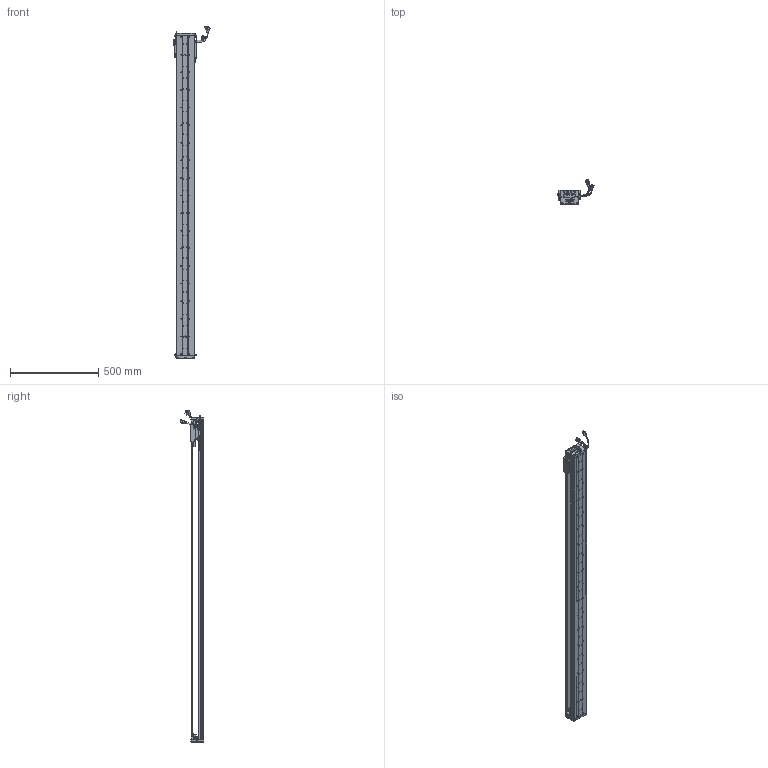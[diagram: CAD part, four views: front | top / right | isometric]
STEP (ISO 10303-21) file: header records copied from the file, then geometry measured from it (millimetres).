
FILE_DESCRIPTION (( 'STEP AP203' ), '1' );
FILE_NAME ('Z1-RY100D-1-L500-B-K.SLDASM_1650.step', '2021-05-17T01:42:18', ( '盈信电脑' ), ( '东莞市道滘镇水果街19号' ), 'SwSTEP 2.0', 'SolidWorks 2016', '' );
FILE_SCHEMA (( 'CONFIG_CONTROL_DESIGN' ));
Length unit declared in the file: millimetre
Products named in the file (36): HARNESS-Part-1; HARNESS; COVER-Part-1; 140雄赽晤鎢ん堤盄; 100-Z-臏賑輸盄裔(21遴); HOLDER0; HARNESS-Part-2; COVER; SCREW-M1.6-1; 140蚥薯蝶輸; 榋妏寠巭燃_暯_M2_2; PBU_SHEET; Z1-RY100-L500詩湍90mm遵_1650; SCREW-M1.6; LABEL; SCREW-M1.7; SCALE-Part-1; SCALE-Part-2; SCALE; Z1-RY100D-1-L500-B-K.SLDASM_1650; Z-RY100D詩湍奻揤裔; SEAL; LABEL-Part-1; Z-100詩湍傷裔啣; 080黍杅芛假蚾釱21遴; Z1-RY100D-500-倰第菁釱_1650; Z-RY100D詩湍狟揤裔; SHIELDPLATE; SCREW-M1.6-3; Z-RY100D覜茼んえ; SEAL-Part-1; SCREW-M1.6-2; 覜茼ん672; SCREW-M1.7-1; Z1-RY100铝滑块（21款）; PSLH080_PSLF2
Assembly tree (44 placements, depth 4):
  Z1-RY100D-1-L500-B-K.SLDASM_1650
    Z1-RY100D-500-倰第菁釱_1650
    Z1-RY100铝滑块（21款）
    PSLH080_PSLF2
      SCALE
        SCALE-Part-1
        SCALE-Part-2
      HARNESS
        HARNESS-Part-1
        HARNESS-Part-2
      LABEL
        LABEL-Part-1
      COVER
        COVER-Part-1
      SEAL
        SEAL-Part-1
      榋妏寠巭燃_暯_M2_2
      SHIELDPLATE
      SCREW-M1.7
      SCREW-M1.7-1
      PBU_SHEET
      SCREW-M1.6
      SCREW-M1.6-1
      SCREW-M1.6-2
      SCREW-M1.6-3
      HOLDER0
    080黍杅芛假蚾釱21遴
    Z-100詩湍傷裔啣  x2
    140蚥薯蝶輸  x2
    覜茼ん672  x4
    Z-RY100D覜茼んえ  x3
    100-Z-臏賑輸盄裔(21遴)
    140雄赽晤鎢ん堤盄
    Z1-RY100-L500詩湍90mm遵_1650
    Z-RY100D詩湍狟揤裔  x2
    Z-RY100D詩湍奻揤裔  x2
Bounding box: 205.83 x 136.11 x 1885.43 mm (x, y, z)
Volume: 3430158.3 mm3; surface area: 1368404.9 mm2
Topology: 39 solids, 39 shells, 2810 faces, 7555 edges, 4820 vertices
Faces by surface type: cylinder 1270, plane 1208, cone 210, torus 69, bspline 53
Entity records: 76583 total; most frequent: CARTESIAN_POINT 16165, DIRECTION 12181, ORIENTED_EDGE 11542, EDGE_CURVE 5771, AXIS2_PLACEMENT_3D 4516, VERTEX_POINT 3728, VECTOR 3149, LINE 3149
